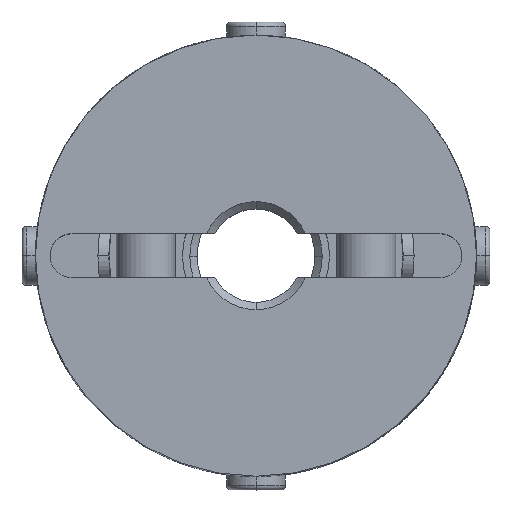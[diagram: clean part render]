
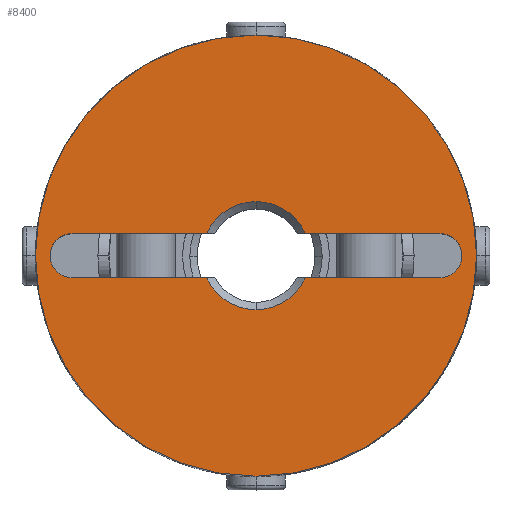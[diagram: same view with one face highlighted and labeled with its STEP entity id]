
A CAD part, top view. The second image highlights one B-rep face of the part: STEP entity #8400.
In plain terms, the highlighted planar face has unit normal (0, 0, 1).
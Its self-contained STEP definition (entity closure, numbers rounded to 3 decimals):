
#649=CARTESIAN_POINT('',(0.,3.675,15.0));
#650=VERTEX_POINT('',#649);
#666=CARTESIAN_POINT('',(3.355,1.5,15.0));
#667=VERTEX_POINT('',#666);
#681=CARTESIAN_POINT('',(0.,0.,15.0));
#682=DIRECTION('',(0.0,0.0,1.0));
#683=DIRECTION('',(0.0,1.0,0.0));
#684=AXIS2_PLACEMENT_3D('',#681,#682,#683);
#685=CIRCLE('',#684,3.675);
#686=EDGE_CURVE('',#667,#650,#685,.T.);
#696=CARTESIAN_POINT('',(0.,-3.675,15.0));
#697=VERTEX_POINT('',#696);
#706=CARTESIAN_POINT('',(3.355,-1.5,15.0));
#707=VERTEX_POINT('',#706);
#708=CARTESIAN_POINT('',(0.,0.,15.0));
#709=DIRECTION('',(0.0,0.0,1.0));
#710=DIRECTION('',(0.0,1.0,0.0));
#711=AXIS2_PLACEMENT_3D('',#708,#709,#710);
#712=CIRCLE('',#711,3.675);
#713=EDGE_CURVE('',#697,#707,#712,.T.);
#872=CARTESIAN_POINT('',(-13.561,-1.061,15.0));
#873=VERTEX_POINT('',#872);
#889=CARTESIAN_POINT('',(-12.5,1.5,15.0));
#890=VERTEX_POINT('',#889);
#897=CARTESIAN_POINT('',(-12.5,0.,15.0));
#898=DIRECTION('',(0.0,0.0,1.0));
#899=DIRECTION('',(-0.707,0.707,0.0));
#900=AXIS2_PLACEMENT_3D('',#897,#898,#899);
#901=CIRCLE('',#900,1.5);
#902=EDGE_CURVE('',#890,#873,#901,.T.);
#914=CARTESIAN_POINT('',(13.561,-1.061,15.0));
#915=VERTEX_POINT('',#914);
#931=CARTESIAN_POINT('',(12.5,-1.5,15.0));
#932=VERTEX_POINT('',#931);
#939=CARTESIAN_POINT('',(12.5,0.,15.0));
#940=DIRECTION('',(0.0,0.0,1.0));
#941=DIRECTION('',(0.707,-0.707,0.0));
#942=AXIS2_PLACEMENT_3D('',#939,#940,#941);
#943=CIRCLE('',#942,1.5);
#944=EDGE_CURVE('',#932,#915,#943,.T.);
#1489=CARTESIAN_POINT('',(0.,-15.,15.0));
#1490=VERTEX_POINT('',#1489);
#1497=CARTESIAN_POINT('',(0.,15.0,15.0));
#1498=VERTEX_POINT('',#1497);
#1499=CARTESIAN_POINT('',(0.,0.,15.0));
#1500=DIRECTION('',(0.0,0.0,-1.0));
#1501=DIRECTION('',(0.0,1.0,0.0));
#1502=AXIS2_PLACEMENT_3D('',#1499,#1500,#1501);
#1503=CIRCLE('',#1502,15.0);
#1504=EDGE_CURVE('',#1490,#1498,#1503,.T.);
#7601=CARTESIAN_POINT('',(0.,0.,15.0));
#7602=DIRECTION('',(0.0,0.0,-1.0));
#7603=DIRECTION('',(0.0,1.0,0.0));
#7604=AXIS2_PLACEMENT_3D('',#7601,#7602,#7603);
#7605=CIRCLE('',#7604,15.0);
#7606=EDGE_CURVE('',#1498,#1490,#7605,.T.);
#8166=CARTESIAN_POINT('',(12.5,1.5,15.0));
#8167=VERTEX_POINT('',#8166);
#8174=CARTESIAN_POINT('',(3.355,1.5,15.0));
#8175=DIRECTION('',(1.0,0.0,0.0));
#8176=VECTOR('',#8175,9.145);
#8177=LINE('',#8174,#8176);
#8178=EDGE_CURVE('',#667,#8167,#8177,.T.);
#8202=CARTESIAN_POINT('',(12.5,0.,15.0));
#8203=DIRECTION('',(0.0,0.0,1.0));
#8204=DIRECTION('',(0.707,-0.707,0.0));
#8205=AXIS2_PLACEMENT_3D('',#8202,#8203,#8204);
#8206=CIRCLE('',#8205,1.5);
#8207=EDGE_CURVE('',#915,#8167,#8206,.T.);
#8220=CARTESIAN_POINT('',(-12.5,-1.5,15.0));
#8221=VERTEX_POINT('',#8220);
#8222=CARTESIAN_POINT('',(-12.5,0.,15.0));
#8223=DIRECTION('',(0.0,0.0,1.0));
#8224=DIRECTION('',(-0.707,0.707,0.0));
#8225=AXIS2_PLACEMENT_3D('',#8222,#8223,#8224);
#8226=CIRCLE('',#8225,1.5);
#8227=EDGE_CURVE('',#873,#8221,#8226,.T.);
#8260=CARTESIAN_POINT('',(-3.355,1.5,15.0));
#8261=VERTEX_POINT('',#8260);
#8275=CARTESIAN_POINT('',(-12.5,1.5,15.0));
#8276=DIRECTION('',(1.0,0.0,0.0));
#8277=VECTOR('',#8276,9.145);
#8278=LINE('',#8275,#8277);
#8279=EDGE_CURVE('',#890,#8261,#8278,.T.);
#8294=CARTESIAN_POINT('',(-3.355,-1.5,15.0));
#8295=VERTEX_POINT('',#8294);
#8296=CARTESIAN_POINT('',(-3.355,-1.5,15.0));
#8297=DIRECTION('',(-1.0,0.0,0.0));
#8298=VECTOR('',#8297,9.145);
#8299=LINE('',#8296,#8298);
#8300=EDGE_CURVE('',#8295,#8221,#8299,.T.);
#8352=CARTESIAN_POINT('',(12.5,-1.5,15.0));
#8353=DIRECTION('',(-1.0,0.0,0.0));
#8354=VECTOR('',#8353,9.145);
#8355=LINE('',#8352,#8354);
#8356=EDGE_CURVE('',#932,#707,#8355,.T.);
#8365=CARTESIAN_POINT('',(0.,1.364,15.0));
#8366=DIRECTION('',(0.0,0.0,1.0));
#8367=DIRECTION('',(0.0,1.0,0.0));
#8368=AXIS2_PLACEMENT_3D('',#8365,#8366,#8367);
#8369=PLANE('',#8368);
#8370=ORIENTED_EDGE('',*,*,#7606,.F.);
#8371=ORIENTED_EDGE('',*,*,#1504,.F.);
#8372=EDGE_LOOP('',(#8370,#8371));
#8373=FACE_OUTER_BOUND('',#8372,.T.);
#8374=ORIENTED_EDGE('',*,*,#8178,.T.);
#8375=ORIENTED_EDGE('',*,*,#8207,.F.);
#8376=ORIENTED_EDGE('',*,*,#944,.F.);
#8377=ORIENTED_EDGE('',*,*,#8356,.T.);
#8378=ORIENTED_EDGE('',*,*,#713,.F.);
#8379=CARTESIAN_POINT('',(0.,0.,15.0));
#8380=DIRECTION('',(0.0,0.0,1.0));
#8381=DIRECTION('',(0.0,1.0,0.0));
#8382=AXIS2_PLACEMENT_3D('',#8379,#8380,#8381);
#8383=CIRCLE('',#8382,3.675);
#8384=EDGE_CURVE('',#8295,#697,#8383,.T.);
#8385=ORIENTED_EDGE('',*,*,#8384,.F.);
#8386=ORIENTED_EDGE('',*,*,#8300,.T.);
#8387=ORIENTED_EDGE('',*,*,#8227,.F.);
#8388=ORIENTED_EDGE('',*,*,#902,.F.);
#8389=ORIENTED_EDGE('',*,*,#8279,.T.);
#8390=CARTESIAN_POINT('',(0.,0.,15.0));
#8391=DIRECTION('',(0.0,0.0,1.0));
#8392=DIRECTION('',(0.0,1.0,0.0));
#8393=AXIS2_PLACEMENT_3D('',#8390,#8391,#8392);
#8394=CIRCLE('',#8393,3.675);
#8395=EDGE_CURVE('',#650,#8261,#8394,.T.);
#8396=ORIENTED_EDGE('',*,*,#8395,.F.);
#8397=ORIENTED_EDGE('',*,*,#686,.F.);
#8398=EDGE_LOOP('',(#8374,#8375,#8376,#8377,#8378,#8385,#8386,#8387,#8388,#8389,#8396,#8397));
#8399=FACE_BOUND('',#8398,.T.);
#8400=ADVANCED_FACE('',(#8373,#8399),#8369,.T.);
